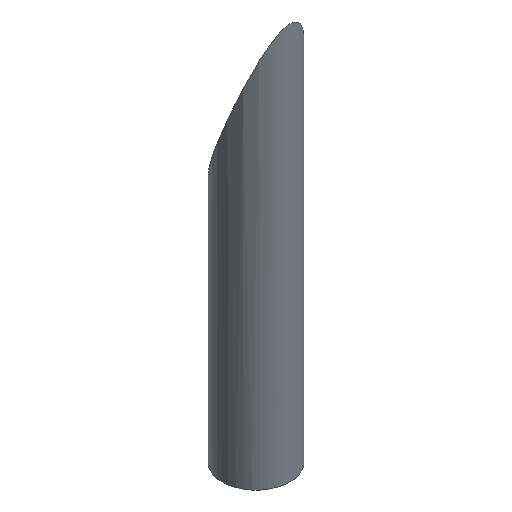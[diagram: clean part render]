
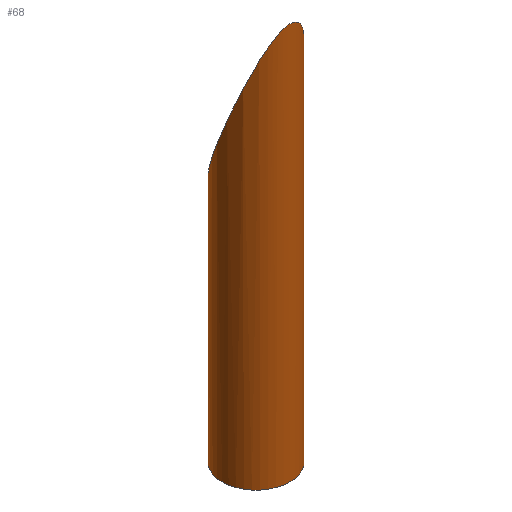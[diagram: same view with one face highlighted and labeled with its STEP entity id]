
A CAD part, isometric view. The second image highlights one B-rep face of the part: STEP entity #68.
In plain terms, the highlighted cylindrical face has radius 0.4 mm (diameter 0.8 mm), a full revolution.
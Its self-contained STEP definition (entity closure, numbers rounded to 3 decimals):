
#1=CARTESIAN_POINT('',(8.475,4.5,-23.7));
#2=DIRECTION('',(1.,0.,0.));
#3=DIRECTION('',(0.,0.,-1.));
#4=AXIS2_PLACEMENT_3D('',#1,#2,#3);
#5=CYLINDRICAL_SURFACE('',#4,0.4);
#6=AXIS2_PLACEMENT_3D('',#1,#2,#3);
#7=CIRCLE('',#6,0.4);
#10=CARTESIAN_POINT('',(5.789,4.9,-23.7));
#11=CARTESIAN_POINT('',(5.789,4.9,-23.725));
#12=CARTESIAN_POINT('',(5.785,4.898,-23.749));
#13=CARTESIAN_POINT('',(5.768,4.889,-23.794));
#14=CARTESIAN_POINT('',(5.756,4.884,-23.815));
#15=CARTESIAN_POINT('',(5.712,4.863,-23.874));
#16=CARTESIAN_POINT('',(5.673,4.844,-23.907));
#17=CARTESIAN_POINT('',(5.531,4.777,-24.001));
#18=CARTESIAN_POINT('',(5.407,4.72,-24.04));
#19=CARTESIAN_POINT('',(5.15,4.607,-24.091));
#20=CARTESIAN_POINT('',(5.017,4.55,-24.1));
#21=CARTESIAN_POINT('',(4.609,4.384,-24.1));
#22=CARTESIAN_POINT('',(4.265,4.257,-24.055));
#23=CARTESIAN_POINT('',(3.941,4.148,-23.894));
#24=CARTESIAN_POINT('',(3.873,4.126,-23.852));
#25=CARTESIAN_POINT('',(3.82,4.109,-23.784));
#26=CARTESIAN_POINT('',(3.81,4.106,-23.769));
#27=CARTESIAN_POINT('',(3.797,4.101,-23.735));
#28=CARTESIAN_POINT('',(3.793,4.1,-23.717));
#29=CARTESIAN_POINT('',(3.793,4.1,-23.683));
#30=CARTESIAN_POINT('',(3.797,4.101,-23.665));
#31=CARTESIAN_POINT('',(3.81,4.106,-23.631));
#32=CARTESIAN_POINT('',(3.82,4.109,-23.616));
#33=CARTESIAN_POINT('',(3.873,4.126,-23.548));
#34=CARTESIAN_POINT('',(3.941,4.148,-23.506));
#35=CARTESIAN_POINT('',(4.265,4.257,-23.345));
#36=CARTESIAN_POINT('',(4.609,4.384,-23.3));
#37=CARTESIAN_POINT('',(5.017,4.55,-23.3));
#38=CARTESIAN_POINT('',(5.15,4.607,-23.309));
#39=CARTESIAN_POINT('',(5.407,4.72,-23.36));
#40=CARTESIAN_POINT('',(5.531,4.777,-23.399));
#41=CARTESIAN_POINT('',(5.673,4.844,-23.493));
#42=CARTESIAN_POINT('',(5.712,4.863,-23.526));
#43=CARTESIAN_POINT('',(5.756,4.884,-23.585));
#44=CARTESIAN_POINT('',(5.768,4.889,-23.606));
#45=CARTESIAN_POINT('',(5.785,4.898,-23.651));
#46=CARTESIAN_POINT('',(5.789,4.9,-23.675));
#47=CARTESIAN_POINT('',(5.789,4.9,-23.7));
#48=B_SPLINE_CURVE_WITH_KNOTS('',3,(#10,#11,#12,#13,#14,#15,#16,#17,#18,#19,#20,#21,#22,#23,#24,#25,#26,#27,#28,#29,#30,#31,#32,#33,#34,#35,#36,#37,#38,#39,#40,#41,#42,#43,#44,#45,#46,#47),.UNSPECIFIED.,.T.,.U.,(4,2,2,2,2,2,2,2,2,2,2,2,2,2,2,2,2,2,4),(0.0,0.007,0.015,0.03,0.07,0.109,0.202,0.223,0.228,0.233,0.238,0.243,0.264,0.356,0.396,0.436,0.451,0.458,0.466),.UNSPECIFIED.);
#50=VERTEX_POINT('',#10);
#51=CARTESIAN_POINT('',(8.475,4.5,-23.3));
#52=VERTEX_POINT('',#51);
#60=EDGE_CURVE('',#50,#50,#48,.T.);
#61=EDGE_CURVE('',#52,#52,#7,.T.);
#62=ORIENTED_EDGE('',*,*,#60,.F.);
#63=ORIENTED_EDGE('',*,*,#61,.F.);
#64=EDGE_LOOP('',(#62));
#65=EDGE_LOOP('',(#63));
#66=FACE_OUTER_BOUND('',#64,.T.);
#67=FACE_BOUND('',#65,.T.);
#68=ADVANCED_FACE('',(#66,#67),#5,.T.);
